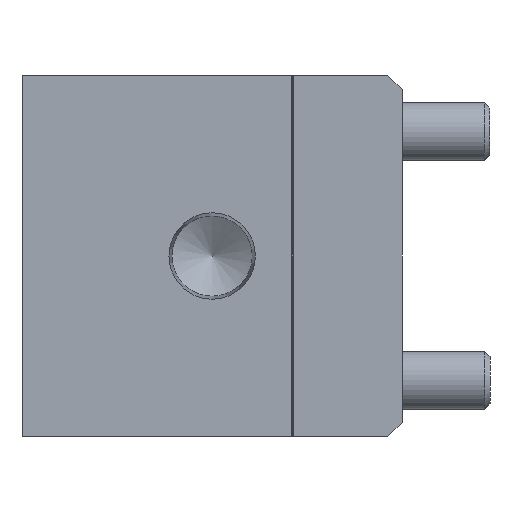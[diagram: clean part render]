
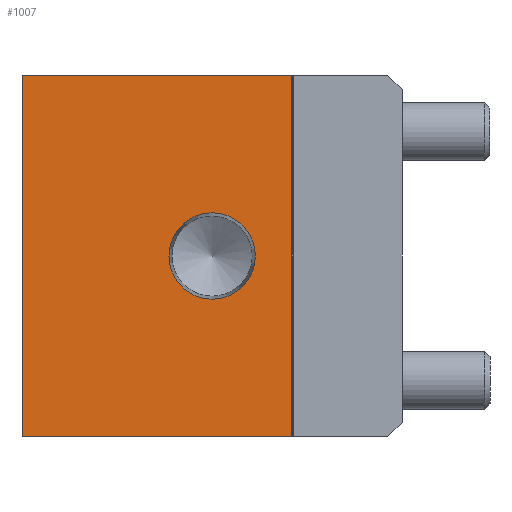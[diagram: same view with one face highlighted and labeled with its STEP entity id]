
A CAD part, left-side view. The second image highlights one B-rep face of the part: STEP entity #1007.
In plain terms, the highlighted planar face has unit normal (-1, 0, 0).
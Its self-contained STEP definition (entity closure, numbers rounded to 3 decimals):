
#1007 = ADVANCED_FACE( '', ( #2179, #2180 ), #2181, .F. );
#2179 = FACE_BOUND( '', #3556, .T. );
#2180 = FACE_OUTER_BOUND( '', #3557, .T. );
#2181 = PLANE( '', #3558 );
#3556 = EDGE_LOOP( '', ( #5852 ) );
#3557 = EDGE_LOOP( '', ( #5853, #5854, #5855, #5856 ) );
#3558 = AXIS2_PLACEMENT_3D( '', #5857, #5858, #5859 );
#5852 = ORIENTED_EDGE( '', *, *, #8077, .T. );
#5853 = ORIENTED_EDGE( '', *, *, #8078, .F. );
#5854 = ORIENTED_EDGE( '', *, *, #8079, .F. );
#5855 = ORIENTED_EDGE( '', *, *, #8080, .T. );
#5856 = ORIENTED_EDGE( '', *, *, #8008, .T. );
#5857 = CARTESIAN_POINT( '', ( 0., 52., 24.75 ) );
#5858 = DIRECTION( '', ( 1., 0., 0. ) );
#5859 = DIRECTION( '', ( 0., 0., -1. ) );
#8008 = EDGE_CURVE( '', #9568, #9570, #9572, .T. );
#8077 = EDGE_CURVE( '', #9667, #9667, #9668, .T. );
#8078 = EDGE_CURVE( '', #9669, #9570, #9670, .T. );
#8079 = EDGE_CURVE( '', #9671, #9669, #9672, .T. );
#8080 = EDGE_CURVE( '', #9671, #9568, #9673, .T. );
#9568 = VERTEX_POINT( '', #11567 );
#9570 = VERTEX_POINT( '', #11570 );
#9572 = LINE( '', #11573, #11574 );
#9667 = VERTEX_POINT( '', #11692 );
#9668 = CIRCLE( '', #11693, 5.91 );
#9669 = VERTEX_POINT( '', #11694 );
#9670 = LINE( '', #11695, #11696 );
#9671 = VERTEX_POINT( '', #11697 );
#9672 = LINE( '', #11698, #11699 );
#9673 = LINE( '', #11700, #11701 );
#11567 = CARTESIAN_POINT( '', ( 0., 52., -24.75 ) );
#11570 = CARTESIAN_POINT( '', ( 0., 15.1, -24.75 ) );
#11573 = CARTESIAN_POINT( '', ( 0., 52., -24.75 ) );
#11574 = VECTOR( '', #13074, 1000. );
#11692 = CARTESIAN_POINT( '', ( 0., 26., -5.91 ) );
#11693 = AXIS2_PLACEMENT_3D( '', #13152, #13153, #13154 );
#11694 = CARTESIAN_POINT( '', ( 0., 15.1, 24.75 ) );
#11695 = CARTESIAN_POINT( '', ( 0., 15.1, 24.75 ) );
#11696 = VECTOR( '', #13155, 1000. );
#11697 = CARTESIAN_POINT( '', ( 0., 52., 24.75 ) );
#11698 = CARTESIAN_POINT( '', ( 0., 52., 24.75 ) );
#11699 = VECTOR( '', #13156, 1000. );
#11700 = CARTESIAN_POINT( '', ( 0., 52., 24.75 ) );
#11701 = VECTOR( '', #13157, 1000. );
#13074 = DIRECTION( '', ( 0., -1., 0. ) );
#13152 = CARTESIAN_POINT( '', ( 0., 26., 0. ) );
#13153 = DIRECTION( '', ( 1., 0., 0. ) );
#13154 = DIRECTION( '', ( 0., 0., -1. ) );
#13155 = DIRECTION( '', ( 0., 0., -1. ) );
#13156 = DIRECTION( '', ( 0., -1., 0. ) );
#13157 = DIRECTION( '', ( 0., 0., -1. ) );
